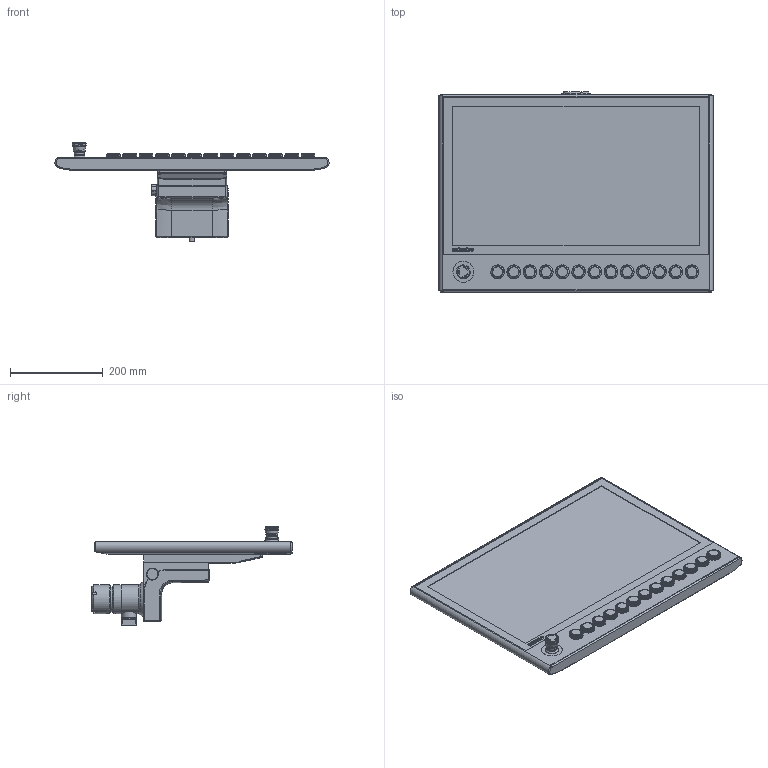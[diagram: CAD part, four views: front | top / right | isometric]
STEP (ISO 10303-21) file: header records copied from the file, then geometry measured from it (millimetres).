
FILE_DESCRIPTION(/* description */ (''),/* implementation_level */ '2;1');
FILE_NAME(/* name */ 'X:\0-inventor\0-3d-Teile\PC-Compo\solids\CP3xxx\0-Ausgabe\CP3924-G027-0010-M752-E274.stp',/* time_stamp */ '2015-11-19T16:29:33+01:00',/* author */ ('christiankreuzer'),/* organization */ ('Design-AG'),/* preprocessor_version */ 'ST-DEVELOPER v16.1',/* originating_system */ 'Autodesk Inventor 2016',/* authorisation */ '');
FILE_SCHEMA (('AUTOMOTIVE_DESIGN { 1 0 10303 214 3 1 1 }'));
Products named in the file (1): CP3924-G027-0010-M752-E274-Step
Bounding box: 592.14 x 432.7 x 213.29 mm (x, y, z)
Volume: 8825063.8 mm3; surface area: 808234.2 mm2
Topology: 17 solids, 28 shells, 2363 faces, 6243 edges, 4080 vertices
Faces by surface type: plane 1340, cylinder 523, cone 202, torus 167, bspline 103, sphere 28
Full cylindrical faces by diameter (mm): 3 x4, 3.4 x4, 4.917 x1, 6 x12, 20.917 x1, 21.3 x1, 21.5 x1, 22 x1, 22.2 x1, 22.55 x3, 22.7 x13, 22.8 x1, 23.028 x13, 23.7 x13, 24 x1, 24.8 x13, 25 x1, 25.8 x1, 26.7 x13, 26.8 x1, 28 x1, 28.6 x13, 33 x1, 45 x1, 45.2 x1, 55 x1, 62 x3
Entity records: 75324 total; most frequent: CARTESIAN_POINT 17661, DIRECTION 11248, ORIENTED_EDGE 11084, EDGE_CURVE 5542, AXIS2_PLACEMENT_3D 3959, VERTEX_POINT 3806, LINE 3330, VECTOR 3330
